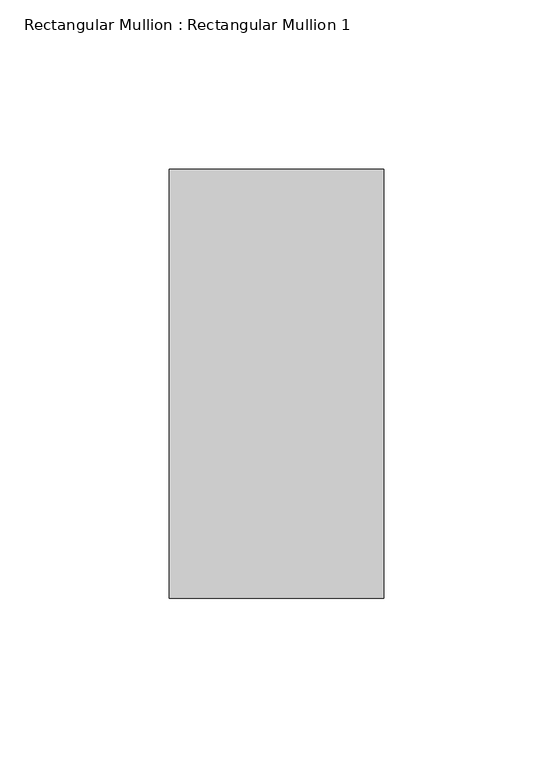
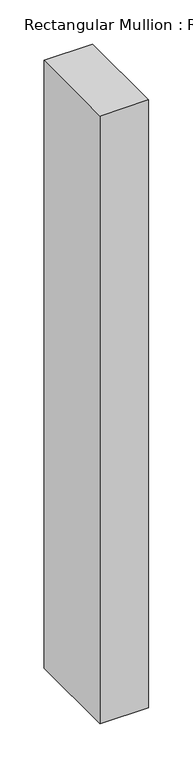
"""IFC4 building model written with IfcOpenShell, lengths in millimetres: member geometry, Rectangular Mullion : Rectangular Mullion 1."""

from ifc_helpers import new_model, si_unit, frame, origin, place, context, project, spatial, polyline, outline, extrude, source, transform, mapped, element, save


def rectangular_mullion_rectangular_mullion_1_60011489(model_context):
    return source(origin(), model_context, "Body", "SweptSolid", [
        extrude(outline(polyline([(0.0, 63.5), (0.0, -63.5), (-63.5, -63.5), (-63.5, 63.5), (0.0, 63.5)])), frame((0.0, 0.0, -839.1597432), z_axis=(0.0, 0.0, 1.0), x_axis=(1.0, 0.0, 0.0)), (0.0, 0.0, 1.0), 839.1597432),
    ])


if __name__ == "__main__":
    model = new_model("IFC4")
    model_context = context("Model", 3, world=origin())
    ifc_project = project(units=[si_unit("LENGTHUNIT", "METRE", prefix="MILLI")], contexts=[model_context])
    site = spatial("IfcSite", under=ifc_project)
    building = spatial("IfcBuilding", under=site)
    placement = place(None, origin())
    rectangular_mullion_rectangular_mullion_1_shape = rectangular_mullion_rectangular_mullion_1_60011489(model_context)
    element("IfcMember", 1, ObjectType="Rectangular Mullion : Rectangular Mullion 1", at=placement, inside=building, context=model_context, shape_type="MappedRepresentation", body=[
        mapped(rectangular_mullion_rectangular_mullion_1_shape, transform((0.0, 0.0, 0.0), x_axis=(1.0, 0.0, 0.0), y_axis=(0.0, 1.0, 0.0), z_axis=(0.0, 0.0, 1.0))),
    ])
    save(model, "model.ifc")
